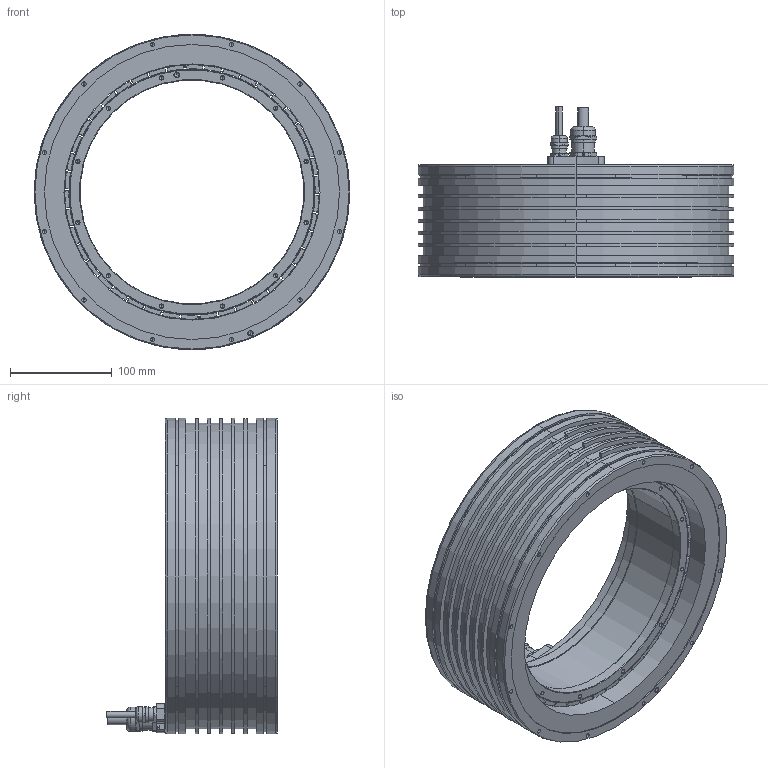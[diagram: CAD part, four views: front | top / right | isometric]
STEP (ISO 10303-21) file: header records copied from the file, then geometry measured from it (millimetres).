
FILE_DESCRIPTION (( 'STEP AP214' ), '1' );
FILE_NAME ('TORQUE KIT QMT LA 310-110-I-AX.STEP', '2025-09-04T13:27:34', ( '' ), ( '' ), 'SwSTEP 2.0', 'SolidWorks 2023', '' );
FILE_SCHEMA (( 'AUTOMOTIVE_DESIGN' ));
Length unit declared in the file: millimetre
Products named in the file (21): Rotor ring; Rotor; Rotor_Glued; Magnet; Housing-BO; Cable Gland; Cable clamp; Screw; Cable; Stator; Resin; Cable Connection; Cooling Ring; TORQUE KIT QMT LA 310-110-I-AX; Housing
Assembly tree (61 placements, depth 6):
  TORQUE KIT QMT LA 310-110-I-AX
    Stator
      Stator
        Housing
          Housing-BO
            Cooling Ring
        Resin
        Cable Connection
          Cable Connection
          Cable
          Cable
      Cable clamp
        Cable clamp
        Cable Gland
        Cable Gland
      Screw  x2
    Rotor
      Rotor_Glued
        Rotor ring
        Magnet  x21
        Magnet  x21
Bounding box: 310 x 167.1 x 310 mm (x, y, z)
Volume: 3280947.7 mm3; surface area: 779271.7 mm2
Topology: 53 solids, 53 shells, 2129 faces, 4921 edges, 2720 vertices
Faces by surface type: cylinder 925, sphere 420, plane 380, cone 212, torus 192
Entity records: 32942 total; most frequent: CARTESIAN_POINT 4746, DIRECTION 4709, ORIENTED_EDGE 3946, EDGE_CURVE 1973, AXIS2_PLACEMENT_3D 1930, VERTEX_POINT 1239, EDGE_LOOP 998, CIRCLE 996
